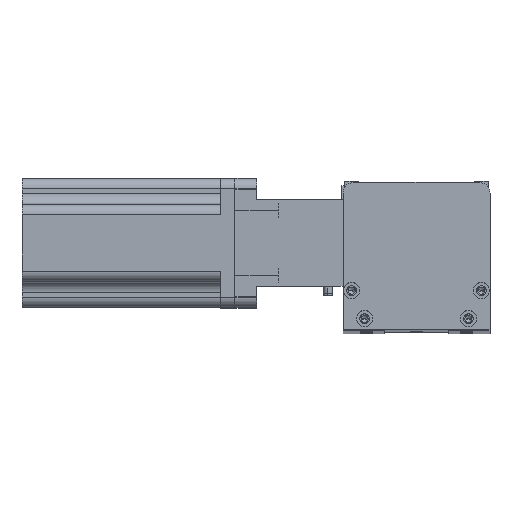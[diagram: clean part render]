
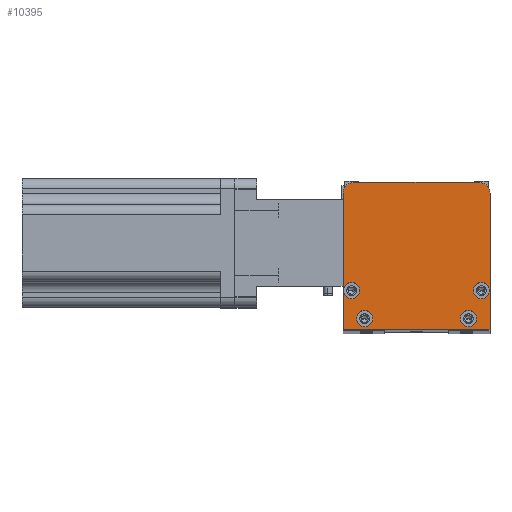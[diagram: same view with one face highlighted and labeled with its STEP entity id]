
A CAD part, top view. The second image highlights one B-rep face of the part: STEP entity #10395.
In plain terms, the highlighted planar face has unit normal (0, 0, 1) as drawn and (0, 0, -1) by its records, which use the part's own axes.
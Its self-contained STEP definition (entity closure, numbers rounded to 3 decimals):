
#69 = LINE ( 'NONE', #29074, #11258 ) ;
#122 = VERTEX_POINT ( 'NONE', #561 ) ;
#270 = CARTESIAN_POINT ( 'NONE',  ( 0.25, 18., 0. ) ) ;
#561 = CARTESIAN_POINT ( 'NONE',  ( 7.75, 18., 0. ) ) ;
#711 = DIRECTION ( 'NONE',  ( 0., 0., -1. ) ) ;
#728 = CARTESIAN_POINT ( 'NONE',  ( 63., 68., 0. ) ) ;
#775 = VERTEX_POINT ( 'NONE', #14445 ) ;
#808 = ORIENTED_EDGE ( 'NONE', *, *, #25269, .F. ) ;
#1300 = EDGE_CURVE ( 'NONE', #775, #28900, #15561, .T. ) ;
#1409 = ORIENTED_EDGE ( 'NONE', *, *, #6451, .F. ) ;
#1665 = CARTESIAN_POINT ( 'NONE',  ( 13.75, 5., 0. ) ) ;
#1870 = CARTESIAN_POINT ( 'NONE',  ( 10., 5., 0. ) ) ;
#2260 = CARTESIAN_POINT ( 'NONE',  ( 64., 18., 0. ) ) ;
#2451 = CARTESIAN_POINT ( 'NONE',  ( 67.75, 18., 0. ) ) ;
#2554 = AXIS2_PLACEMENT_3D ( 'NONE', #20103, #6443, #22345 ) ;
#3132 = EDGE_CURVE ( 'NONE', #12346, #14613, #8620, .T. ) ;
#3208 = DIRECTION ( 'NONE',  ( 0., 0., -1. ) ) ;
#3732 = FACE_BOUND ( 'NONE', #18667, .T. ) ;
#3737 = ORIENTED_EDGE ( 'NONE', *, *, #3132, .F. ) ;
#4045 = CARTESIAN_POINT ( 'NONE',  ( 5., 68., 0. ) ) ;
#4093 = DIRECTION ( 'NONE',  ( -1., 0., 0. ) ) ;
#4420 = CIRCLE ( 'NONE', #2554, 5. ) ;
#4454 = VECTOR ( 'NONE', #8501, 1000. ) ;
#4480 = DIRECTION ( 'NONE',  ( -1., 0., 0. ) ) ;
#4668 = ORIENTED_EDGE ( 'NONE', *, *, #1300, .F. ) ;
#5129 = FACE_BOUND ( 'NONE', #24582, .T. ) ;
#5415 = DIRECTION ( 'NONE',  ( 1., 0., 0. ) ) ;
#5466 = DIRECTION ( 'NONE',  ( 0., 0., -1. ) ) ;
#5691 = CIRCLE ( 'NONE', #27138, 3.75 ) ;
#5763 = DIRECTION ( 'NONE',  ( 0., 0., -1. ) ) ;
#6144 = EDGE_CURVE ( 'NONE', #7694, #14105, #19633, .T. ) ;
#6227 = VERTEX_POINT ( 'NONE', #4045 ) ;
#6428 = AXIS2_PLACEMENT_3D ( 'NONE', #14168, #711, #16540 ) ;
#6443 = DIRECTION ( 'NONE',  ( 0., 0., -1. ) ) ;
#6451 = EDGE_CURVE ( 'NONE', #16543, #122, #5691, .T. ) ;
#6797 = AXIS2_PLACEMENT_3D ( 'NONE', #19139, #5466, #21390 ) ;
#6974 = ORIENTED_EDGE ( 'NONE', *, *, #28974, .F. ) ;
#7694 = VERTEX_POINT ( 'NONE', #10010 ) ;
#8156 = VECTOR ( 'NONE', #10506, 1000. ) ;
#8200 = EDGE_CURVE ( 'NONE', #14613, #12346, #15916, .T. ) ;
#8279 = EDGE_CURVE ( 'NONE', #20982, #27332, #13710, .T. ) ;
#8501 = DIRECTION ( 'NONE',  ( 1., 0., 0. ) ) ;
#8620 = CIRCLE ( 'NONE', #12526, 3.75 ) ;
#8894 = AXIS2_PLACEMENT_3D ( 'NONE', #16811, #3208, #19078 ) ;
#9654 = FACE_BOUND ( 'NONE', #27035, .T. ) ;
#10010 = CARTESIAN_POINT ( 'NONE',  ( 0., 63., 0. ) ) ;
#10242 = LINE ( 'NONE', #24028, #18184 ) ;
#10395 = ADVANCED_FACE ( 'NONE', ( #27890, #3732, #5129, #9654, #27164 ), #14440, .F. ) ;
#10506 = DIRECTION ( 'NONE',  ( 0., -1., 0. ) ) ;
#10852 = CARTESIAN_POINT ( 'NONE',  ( 61.75, 5., 0. ) ) ;
#10937 = VERTEX_POINT ( 'NONE', #27867 ) ;
#11258 = VECTOR ( 'NONE', #15407, 1000. ) ;
#11421 = CARTESIAN_POINT ( 'NONE',  ( 58., 5., 0. ) ) ;
#11785 = CARTESIAN_POINT ( 'NONE',  ( 4., 18., 0. ) ) ;
#12346 = VERTEX_POINT ( 'NONE', #26744 ) ;
#12526 = AXIS2_PLACEMENT_3D ( 'NONE', #1870, #17759, #4093 ) ;
#12816 = CARTESIAN_POINT ( 'NONE',  ( 60.25, 18., 0. ) ) ;
#13287 = CARTESIAN_POINT ( 'NONE',  ( 68., 0., 0. ) ) ;
#13476 = AXIS2_PLACEMENT_3D ( 'NONE', #27610, #26661, #26459 ) ;
#13710 = CIRCLE ( 'NONE', #15972, 3.75 ) ;
#13720 = DIRECTION ( 'NONE',  ( -1., 0., 0. ) ) ;
#14089 = DIRECTION ( 'NONE',  ( -1., 0., 0. ) ) ;
#14105 = VERTEX_POINT ( 'NONE', #25540 ) ;
#14168 = CARTESIAN_POINT ( 'NONE',  ( 5., 63., 0. ) ) ;
#14302 = AXIS2_PLACEMENT_3D ( 'NONE', #23495, #19077, #5415 ) ;
#14440 = PLANE ( 'NONE',  #14302 ) ;
#14445 = CARTESIAN_POINT ( 'NONE',  ( 54.25, 5., 0. ) ) ;
#14613 = VERTEX_POINT ( 'NONE', #1665 ) ;
#15407 = DIRECTION ( 'NONE',  ( -1., 0., 0. ) ) ;
#15561 = CIRCLE ( 'NONE', #13476, 3.75 ) ;
#15741 = EDGE_CURVE ( 'NONE', #20249, #10937, #4420, .T. ) ;
#15916 = CIRCLE ( 'NONE', #6797, 3.75 ) ;
#15972 = AXIS2_PLACEMENT_3D ( 'NONE', #19439, #5763, #21677 ) ;
#16142 = ORIENTED_EDGE ( 'NONE', *, *, #23114, .F. ) ;
#16540 = DIRECTION ( 'NONE',  ( 1., 0., 0. ) ) ;
#16543 = VERTEX_POINT ( 'NONE', #270 ) ;
#16811 = CARTESIAN_POINT ( 'NONE',  ( 4., 18., 0. ) ) ;
#17759 = DIRECTION ( 'NONE',  ( 0., 0., -1. ) ) ;
#18141 = DIRECTION ( 'NONE',  ( 0., 0., -1. ) ) ;
#18184 = VECTOR ( 'NONE', #26294, 1000. ) ;
#18667 = EDGE_LOOP ( 'NONE', ( #1409, #16142 ) ) ;
#18851 = EDGE_CURVE ( 'NONE', #20249, #6227, #69, .T. ) ;
#19077 = DIRECTION ( 'NONE',  ( 0., 0., 1. ) ) ;
#19078 = DIRECTION ( 'NONE',  ( -1., 0., 0. ) ) ;
#19093 = CIRCLE ( 'NONE', #6428, 5. ) ;
#19139 = CARTESIAN_POINT ( 'NONE',  ( 10., 5., 0. ) ) ;
#19439 = CARTESIAN_POINT ( 'NONE',  ( 64., 18., 0. ) ) ;
#19633 = LINE ( 'NONE', #26461, #8156 ) ;
#20103 = CARTESIAN_POINT ( 'NONE',  ( 63., 63., 0. ) ) ;
#20249 = VERTEX_POINT ( 'NONE', #728 ) ;
#20411 = ORIENTED_EDGE ( 'NONE', *, *, #24972, .F. ) ;
#20698 = EDGE_CURVE ( 'NONE', #7694, #6227, #19093, .T. ) ;
#20982 = VERTEX_POINT ( 'NONE', #12816 ) ;
#21162 = LINE ( 'NONE', #26845, #4454 ) ;
#21390 = DIRECTION ( 'NONE',  ( -1., 0., 0. ) ) ;
#21627 = VERTEX_POINT ( 'NONE', #13287 ) ;
#21677 = DIRECTION ( 'NONE',  ( -1., 0., 0. ) ) ;
#21735 = CIRCLE ( 'NONE', #8894, 3.75 ) ;
#22124 = AXIS2_PLACEMENT_3D ( 'NONE', #11421, #27407, #13720 ) ;
#22218 = EDGE_CURVE ( 'NONE', #14105, #21627, #21162, .T. ) ;
#22345 = DIRECTION ( 'NONE',  ( 1., 0., 0. ) ) ;
#22785 = AXIS2_PLACEMENT_3D ( 'NONE', #2260, #18141, #4480 ) ;
#23114 = EDGE_CURVE ( 'NONE', #122, #16543, #21735, .T. ) ;
#23495 = CARTESIAN_POINT ( 'NONE',  ( 0., 0., 0. ) ) ;
#24028 = CARTESIAN_POINT ( 'NONE',  ( 68., 0., 0. ) ) ;
#24582 = EDGE_LOOP ( 'NONE', ( #3737, #29113 ) ) ;
#24843 = ORIENTED_EDGE ( 'NONE', *, *, #20698, .T. ) ;
#24972 = EDGE_CURVE ( 'NONE', #21627, #10937, #10242, .T. ) ;
#25269 = EDGE_CURVE ( 'NONE', #28900, #775, #28456, .T. ) ;
#25329 = CIRCLE ( 'NONE', #22785, 3.75 ) ;
#25540 = CARTESIAN_POINT ( 'NONE',  ( 0., 0., 0. ) ) ;
#25632 = ORIENTED_EDGE ( 'NONE', *, *, #22218, .F. ) ;
#26279 = ORIENTED_EDGE ( 'NONE', *, *, #15741, .T. ) ;
#26294 = DIRECTION ( 'NONE',  ( 0., 1., 0. ) ) ;
#26459 = DIRECTION ( 'NONE',  ( -1., 0., 0. ) ) ;
#26461 = CARTESIAN_POINT ( 'NONE',  ( 0., 0., 0. ) ) ;
#26661 = DIRECTION ( 'NONE',  ( 0., 0., -1. ) ) ;
#26744 = CARTESIAN_POINT ( 'NONE',  ( 6.25, 5., 0. ) ) ;
#26845 = CARTESIAN_POINT ( 'NONE',  ( 68., 0., 0. ) ) ;
#27035 = EDGE_LOOP ( 'NONE', ( #4668, #808 ) ) ;
#27138 = AXIS2_PLACEMENT_3D ( 'NONE', #11785, #27771, #14089 ) ;
#27164 = FACE_OUTER_BOUND ( 'NONE', #27578, .T. ) ;
#27332 = VERTEX_POINT ( 'NONE', #2451 ) ;
#27359 = ORIENTED_EDGE ( 'NONE', *, *, #8279, .F. ) ;
#27407 = DIRECTION ( 'NONE',  ( 0., 0., -1. ) ) ;
#27578 = EDGE_LOOP ( 'NONE', ( #28086, #24843, #28413, #26279, #20411, #25632 ) ) ;
#27610 = CARTESIAN_POINT ( 'NONE',  ( 58., 5., 0. ) ) ;
#27771 = DIRECTION ( 'NONE',  ( 0., 0., -1. ) ) ;
#27867 = CARTESIAN_POINT ( 'NONE',  ( 68., 63., 0. ) ) ;
#27890 = FACE_BOUND ( 'NONE', #28561, .T. ) ;
#28086 = ORIENTED_EDGE ( 'NONE', *, *, #6144, .F. ) ;
#28413 = ORIENTED_EDGE ( 'NONE', *, *, #18851, .F. ) ;
#28456 = CIRCLE ( 'NONE', #22124, 3.75 ) ;
#28561 = EDGE_LOOP ( 'NONE', ( #27359, #6974 ) ) ;
#28900 = VERTEX_POINT ( 'NONE', #10852 ) ;
#28974 = EDGE_CURVE ( 'NONE', #27332, #20982, #25329, .T. ) ;
#29074 = CARTESIAN_POINT ( 'NONE',  ( 68., 68., 0. ) ) ;
#29113 = ORIENTED_EDGE ( 'NONE', *, *, #8200, .F. ) ;
